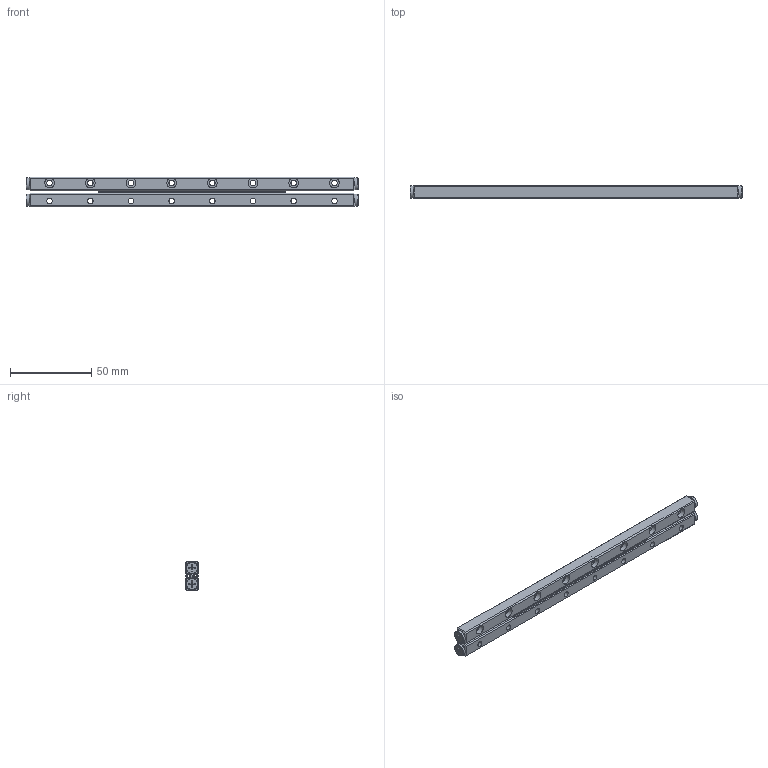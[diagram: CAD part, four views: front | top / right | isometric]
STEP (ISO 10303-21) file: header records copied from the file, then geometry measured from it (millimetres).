
FILE_DESCRIPTION (( 'STEP AP203' ), '1' );
FILE_NAME ('組合件-軌道組-GRV03-0200H-38Z-模糊化軌道組.STEP', '2022-12-16T07:43:16', ( '' ), ( '' ), 'SwSTEP 2.0', 'SolidWorks 2019', '' );
FILE_SCHEMA (( 'CONFIG_CONTROL_DESIGN' ));
Length unit declared in the file: millimetre
Products named in the file (1): 組合件-軌道組-GRV03-0200H-38Z-模糊化軌道組
Bounding box: 204 x 8 x 18 mm (x, y, z)
Volume: 24249.1 mm3; surface area: 17987.3 mm2
Topology: 3 solids, 31 shells, 754 faces, 2024 edges, 1288 vertices
Faces by surface type: plane 472, cylinder 126, cone 84, torus 72
Full cylindrical faces by diameter (mm): 2 x4, 2.55 x28, 3.4 x16, 6 x16, 7.5 x4
Entity records: 22493 total; most frequent: CARTESIAN_POINT 6163, ORIENTED_EDGE 3624, DIRECTION 3034, EDGE_CURVE 1812, VERTEX_POINT 1212, AXIS2_PLACEMENT_3D 1155, EDGE_LOOP 926, FACE_OUTER_BOUND 838
